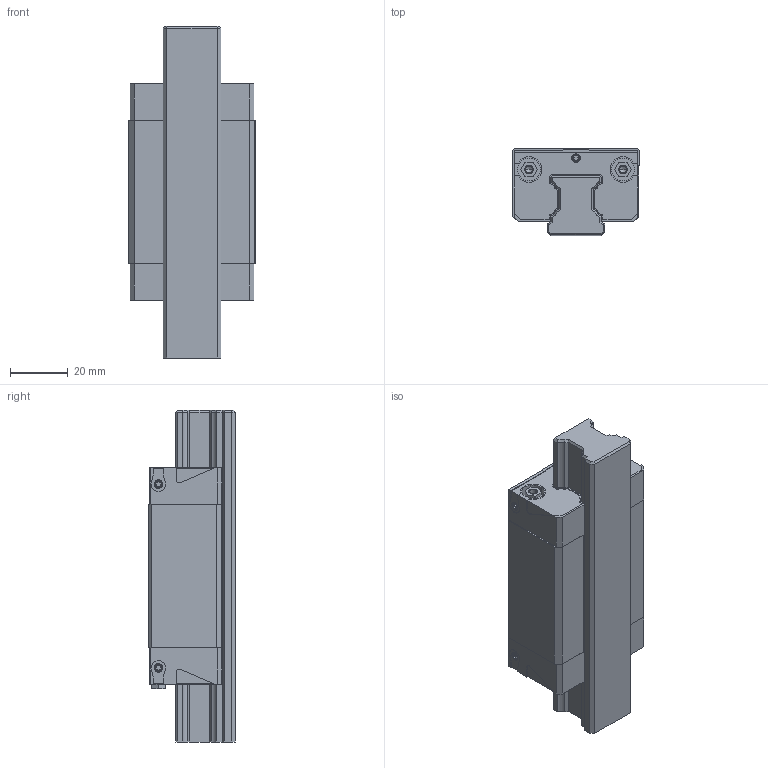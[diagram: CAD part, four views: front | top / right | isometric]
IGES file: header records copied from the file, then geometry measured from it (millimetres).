
Start section: 3D InterOp IGES (v. 2019 1.0.2), Spatial Corp. Copyright (c) 1999-2017.
Global section: file name: R1622_size20.igs; native system: Spatial Corp.; preprocessor: 3D InterOp GENERIC/IGES 3.0; author: Noname; organization: Noname; date: 20220629.124902; units: millimetre
Bounding box: 44 x 30 x 115 mm (x, y, z)
Surface area: 33856.5 mm2 (no closed solid volume)
Topology: 0 solids, 0 shells, 509 faces, 2670 edges, 2648 vertices
Faces by surface type: extrusion 291, revolution 218
